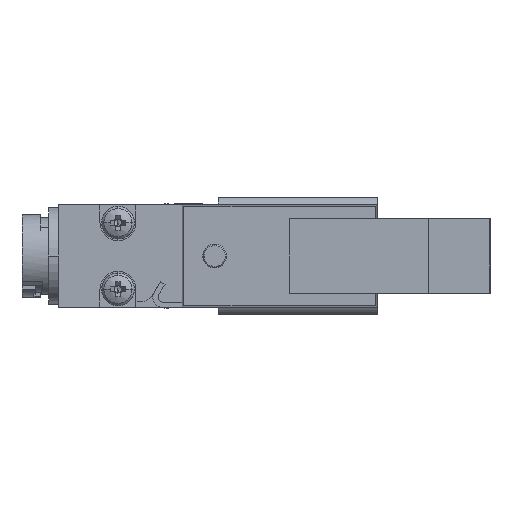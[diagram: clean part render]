
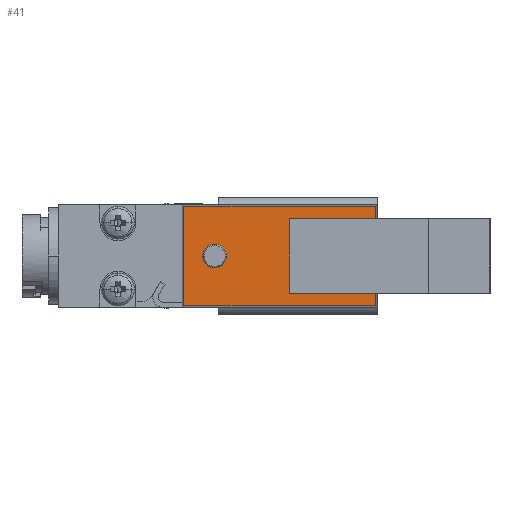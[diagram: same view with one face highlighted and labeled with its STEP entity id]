
A CAD part, left-side view. The second image highlights one B-rep face of the part: STEP entity #41.
In plain terms, the highlighted planar face has unit normal (-1, 0, 0) as drawn and (0, 0, 1) by its records, which use the part's own axes.
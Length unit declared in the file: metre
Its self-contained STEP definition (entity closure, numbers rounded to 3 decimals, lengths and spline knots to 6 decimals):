
#41 = ADVANCED_FACE ( 'NONE', ( #4898, #8549, #11384, #1565 ), #8306, .F. ) ;
#182 = CARTESIAN_POINT ( 'NONE',  ( -0.0015, 0.0075, 0.005 ) ) ;
#291 = LINE ( 'NONE', #10139, #6516 ) ;
#382 = VERTEX_POINT ( 'NONE', #12740 ) ;
#567 = EDGE_LOOP ( 'NONE', ( #1260, #5332 ) ) ;
#608 = ORIENTED_EDGE ( 'NONE', *, *, #10138, .F. ) ;
#1122 = EDGE_LOOP ( 'NONE', ( #15205, #3129, #9635, #9243 ) ) ;
#1226 = CARTESIAN_POINT ( 'NONE',  ( 0.00115, 0.016825, 0.005 ) ) ;
#1260 = ORIENTED_EDGE ( 'NONE', *, *, #8716, .F. ) ;
#1422 = CARTESIAN_POINT ( 'NONE',  ( 0.004825, 0.019825, 0.005 ) ) ;
#1512 = CARTESIAN_POINT ( 'NONE',  ( -0.0015, 0.0065, 0.005 ) ) ;
#1565 = FACE_OUTER_BOUND ( 'NONE', #1122, .T. ) ;
#1606 = CARTESIAN_POINT ( 'NONE',  ( 0.0015, 0.0075, 0.005 ) ) ;
#1855 = ORIENTED_EDGE ( 'NONE', *, *, #15354, .F. ) ;
#2339 = CARTESIAN_POINT ( 'NONE',  ( 0.0015, 0.0075, 0.005 ) ) ;
#2456 = CARTESIAN_POINT ( 'NONE',  ( -0.004825, 0.001175, 0.005 ) ) ;
#2767 = CARTESIAN_POINT ( 'NONE',  ( -0.0005, 0.0065, 0.005 ) ) ;
#3039 = LINE ( 'NONE', #6438, #6343 ) ;
#3079 = AXIS2_PLACEMENT_3D ( 'NONE', #6792, #15391, #8016 ) ;
#3107 = VERTEX_POINT ( 'NONE', #15440 ) ;
#3129 = ORIENTED_EDGE ( 'NONE', *, *, #3753, .F. ) ;
#3492 = VERTEX_POINT ( 'NONE', #1422 ) ;
#3753 = EDGE_CURVE ( 'NONE', #13413, #11894, #3039, .T. ) ;
#3939 = CIRCLE ( 'NONE', #3079, 0.00115 ) ;
#3991 = VERTEX_POINT ( 'NONE', #10950 ) ;
#4221 = CARTESIAN_POINT ( 'NONE',  ( 0., 0.016825, 0.005 ) ) ;
#4290 = CARTESIAN_POINT ( 'NONE',  ( 0.0015, 0.0075, 0.005 ) ) ;
#4592 =( BOUNDED_CURVE ( )  B_SPLINE_CURVE ( 3, ( #7772, #12646, #9008, #1606 ),
 .UNSPECIFIED., .F., .F. ) 
 B_SPLINE_CURVE_WITH_KNOTS ( ( 4, 4 ),
 ( 0., 0.001563 ),
 .UNSPECIFIED. ) 
 CURVE ( )  GEOMETRIC_REPRESENTATION_ITEM ( )  RATIONAL_B_SPLINE_CURVE ( ( 0.957, 0.319, 0.319, 0.957 ) ) 
 REPRESENTATION_ITEM ( '' )  );
#4853 = CARTESIAN_POINT ( 'NONE',  ( 0.0005, 0.0075, 0.005 ) ) ;
#4898 = FACE_BOUND ( 'NONE', #11127, .T. ) ;
#5226 = EDGE_CURVE ( 'NONE', #11894, #3492, #10260, .T. ) ;
#5332 = ORIENTED_EDGE ( 'NONE', *, *, #5348, .F. ) ;
#5348 = EDGE_CURVE ( 'NONE', #3107, #3991, #15938, .T. ) ;
#5478 = DIRECTION ( 'NONE',  ( -1., 0., 0. ) ) ;
#5650 = VERTEX_POINT ( 'NONE', #10865 ) ;
#5814 = EDGE_LOOP ( 'NONE', ( #1855, #608 ) ) ;
#6262 = DIRECTION ( 'NONE',  ( 0., 1., 0. ) ) ;
#6343 = VECTOR ( 'NONE', #6262, 1. ) ;
#6438 = CARTESIAN_POINT ( 'NONE',  ( -0.004825, 0.0105, 0.005 ) ) ;
#6442 = CARTESIAN_POINT ( 'NONE',  ( -0.0005, 0.0075, 0.005 ) ) ;
#6516 = VECTOR ( 'NONE', #13811, 1. ) ;
#6546 = CARTESIAN_POINT ( 'NONE',  ( -0.00115, 0.016825, 0.005 ) ) ;
#6583 = CARTESIAN_POINT ( 'NONE',  ( 0., 0.001175, 0.005 ) ) ;
#6597 = CARTESIAN_POINT ( 'NONE',  ( 0., 0.019825, 0.005 ) ) ;
#6679 = VECTOR ( 'NONE', #13907, 1. ) ;
#6792 = CARTESIAN_POINT ( 'NONE',  ( 0., 0.016825, 0.005 ) ) ;
#7073 = VERTEX_POINT ( 'NONE', #4290 ) ;
#7632 =( BOUNDED_CURVE ( )  B_SPLINE_CURVE ( 3, ( #2339, #9701, #12168, #4853 ),
 .UNSPECIFIED., .F., .F. ) 
 B_SPLINE_CURVE_WITH_KNOTS ( ( 4, 4 ),
 ( 0., 0.001563 ),
 .UNSPECIFIED. ) 
 CURVE ( )  GEOMETRIC_REPRESENTATION_ITEM ( )  RATIONAL_B_SPLINE_CURVE ( ( 0.957, 0.319, 0.319, 0.957 ) ) 
 REPRESENTATION_ITEM ( '' )  );
#7772 = CARTESIAN_POINT ( 'NONE',  ( 0.0005, 0.0075, 0.005 ) ) ;
#7934 =( BOUNDED_CURVE ( )  B_SPLINE_CURVE ( 3, ( #10098, #1512, #2767, #11351 ),
 .UNSPECIFIED., .F., .T. ) 
 B_SPLINE_CURVE_WITH_KNOTS ( ( 4, 4 ),
 ( 0., 0.001563 ),
 .UNSPECIFIED. ) 
 CURVE ( )  GEOMETRIC_REPRESENTATION_ITEM ( )  RATIONAL_B_SPLINE_CURVE ( ( 0.957, 0.319, 0.319, 0.957 ) ) 
 REPRESENTATION_ITEM ( '' )  );
#8010 = CARTESIAN_POINT ( 'NONE',  ( 0.004825, 0.001175, 0.005 ) ) ;
#8016 = DIRECTION ( 'NONE',  ( -1., 0., 0. ) ) ;
#8112 = DIRECTION ( 'NONE',  ( -1., 0., 0. ) ) ;
#8203 = DIRECTION ( 'NONE',  ( 0., 0., -1. ) ) ;
#8306 = PLANE ( 'NONE',  #11304 ) ;
#8483 = ORIENTED_EDGE ( 'NONE', *, *, #11922, .T. ) ;
#8549 = FACE_BOUND ( 'NONE', #5814, .T. ) ;
#8716 = EDGE_CURVE ( 'NONE', #3991, #3107, #7934, .T. ) ;
#8838 = CARTESIAN_POINT ( 'NONE',  ( -0.0015, 0.0085, 0.005 ) ) ;
#9008 = CARTESIAN_POINT ( 'NONE',  ( 0.0015, 0.0065, 0.005 ) ) ;
#9123 = VECTOR ( 'NONE', #13891, 1. ) ;
#9243 = ORIENTED_EDGE ( 'NONE', *, *, #14067, .F. ) ;
#9635 = ORIENTED_EDGE ( 'NONE', *, *, #11426, .F. ) ;
#9701 = CARTESIAN_POINT ( 'NONE',  ( 0.0015, 0.0085, 0.005 ) ) ;
#10098 = CARTESIAN_POINT ( 'NONE',  ( -0.0015, 0.0075, 0.005 ) ) ;
#10138 = EDGE_CURVE ( 'NONE', #382, #7073, #4592, .T. ) ;
#10139 = CARTESIAN_POINT ( 'NONE',  ( 0.004825, 0.0105, 0.005 ) ) ;
#10260 = LINE ( 'NONE', #6597, #6679 ) ;
#10865 = CARTESIAN_POINT ( 'NONE',  ( 0.004825, 0.001175, 0.005 ) ) ;
#10878 = EDGE_CURVE ( 'NONE', #13885, #12997, #12371, .T. ) ;
#10950 = CARTESIAN_POINT ( 'NONE',  ( -0.0015, 0.0075, 0.005 ) ) ;
#11127 = EDGE_LOOP ( 'NONE', ( #8483, #15145 ) ) ;
#11304 = AXIS2_PLACEMENT_3D ( 'NONE', #8010, #8203, #8112 ) ;
#11351 = CARTESIAN_POINT ( 'NONE',  ( -0.0005, 0.0075, 0.005 ) ) ;
#11384 = FACE_BOUND ( 'NONE', #567, .T. ) ;
#11426 = EDGE_CURVE ( 'NONE', #5650, #13413, #12355, .T. ) ;
#11697 = AXIS2_PLACEMENT_3D ( 'NONE', #4221, #12781, #5478 ) ;
#11894 = VERTEX_POINT ( 'NONE', #12763 ) ;
#11922 = EDGE_CURVE ( 'NONE', #12997, #13885, #3939, .T. ) ;
#12168 = CARTESIAN_POINT ( 'NONE',  ( 0.0005, 0.0085, 0.005 ) ) ;
#12355 = LINE ( 'NONE', #6583, #9123 ) ;
#12371 = CIRCLE ( 'NONE', #11697, 0.00115 ) ;
#12646 = CARTESIAN_POINT ( 'NONE',  ( 0.0005, 0.0065, 0.005 ) ) ;
#12740 = CARTESIAN_POINT ( 'NONE',  ( 0.0005, 0.0075, 0.005 ) ) ;
#12763 = CARTESIAN_POINT ( 'NONE',  ( -0.004825, 0.019825, 0.005 ) ) ;
#12781 = DIRECTION ( 'NONE',  ( 0., 0., -1. ) ) ;
#12997 = VERTEX_POINT ( 'NONE', #6546 ) ;
#13413 = VERTEX_POINT ( 'NONE', #2456 ) ;
#13746 = CARTESIAN_POINT ( 'NONE',  ( -0.0005, 0.0085, 0.005 ) ) ;
#13811 = DIRECTION ( 'NONE',  ( 0., -1., 0. ) ) ;
#13885 = VERTEX_POINT ( 'NONE', #1226 ) ;
#13891 = DIRECTION ( 'NONE',  ( -1., 0., 0. ) ) ;
#13907 = DIRECTION ( 'NONE',  ( 1., 0., 0. ) ) ;
#14067 = EDGE_CURVE ( 'NONE', #3492, #5650, #291, .T. ) ;
#15145 = ORIENTED_EDGE ( 'NONE', *, *, #10878, .T. ) ;
#15205 = ORIENTED_EDGE ( 'NONE', *, *, #5226, .F. ) ;
#15354 = EDGE_CURVE ( 'NONE', #7073, #382, #7632, .T. ) ;
#15391 = DIRECTION ( 'NONE',  ( 0., 0., -1. ) ) ;
#15440 = CARTESIAN_POINT ( 'NONE',  ( -0.0005, 0.0075, 0.005 ) ) ;
#15938 =( BOUNDED_CURVE ( )  B_SPLINE_CURVE ( 3, ( #6442, #13746, #8838, #182 ),
 .UNSPECIFIED., .F., .F. ) 
 B_SPLINE_CURVE_WITH_KNOTS ( ( 4, 4 ),
 ( 0., 0.001563 ),
 .UNSPECIFIED. ) 
 CURVE ( )  GEOMETRIC_REPRESENTATION_ITEM ( )  RATIONAL_B_SPLINE_CURVE ( ( 0.957, 0.319, 0.319, 0.957 ) ) 
 REPRESENTATION_ITEM ( '' )  );
